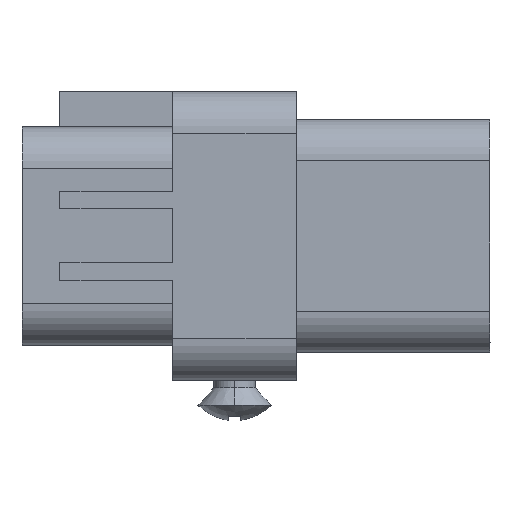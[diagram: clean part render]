
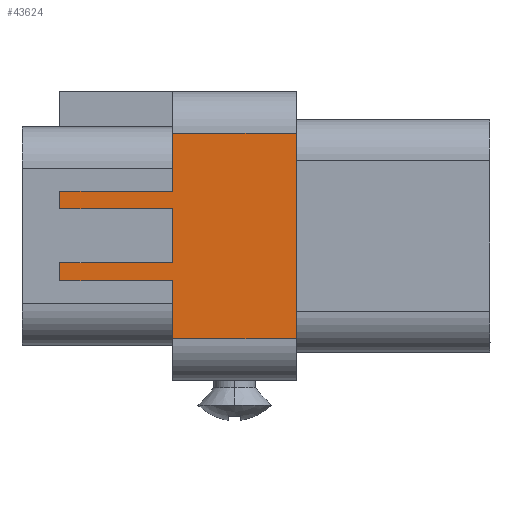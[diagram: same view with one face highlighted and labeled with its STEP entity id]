
A CAD part, top view. The second image highlights one B-rep face of the part: STEP entity #43624.
In plain terms, the highlighted planar face has unit normal (0, 0, 1).
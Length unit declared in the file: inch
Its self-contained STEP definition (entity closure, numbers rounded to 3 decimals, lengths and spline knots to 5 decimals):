
#1281 = CARTESIAN_POINT ( 'NONE',  ( 0.781, -0.29339, 0.41 ) ) ;
#1282 = DIRECTION ( 'NONE',  ( 0., 1., 0. ) ) ;
#1283 = VECTOR ( 'NONE', #1282, 39.37008 ) ;
#1284 = CARTESIAN_POINT ( 'NONE',  ( 0.781, -0.332, 0.41 ) ) ;
#1285 = LINE ( 'NONE', #1284, #1283 ) ;
#1286 = CARTESIAN_POINT ( 'NONE',  ( 0.781, 0.29339, 0.41 ) ) ;
#17921 = CARTESIAN_POINT ( 'NONE',  ( 0.428, 0.29339, 0.41 ) ) ;
#17922 = DIRECTION ( 'NONE',  ( 0., -1., 0. ) ) ;
#17923 = VECTOR ( 'NONE', #17922, 39.37008 ) ;
#17924 = CARTESIAN_POINT ( 'NONE',  ( 0.428, -0.4115, 0.41 ) ) ;
#17925 = LINE ( 'NONE', #17924, #17923 ) ;
#17926 = CARTESIAN_POINT ( 'NONE',  ( 0.428, 0.127, 0.41 ) ) ;
#18127 = CARTESIAN_POINT ( 'NONE',  ( 0.428, -0.127, 0.41 ) ) ;
#18128 = DIRECTION ( 'NONE',  ( 0., -1., 0. ) ) ;
#18129 = VECTOR ( 'NONE', #18128, 39.37008 ) ;
#18130 = CARTESIAN_POINT ( 'NONE',  ( 0.428, -0.4115, 0.41 ) ) ;
#18131 = LINE ( 'NONE', #18130, #18129 ) ;
#18132 = CARTESIAN_POINT ( 'NONE',  ( 0.428, -0.29339, 0.41 ) ) ;
#18202 = CARTESIAN_POINT ( 'NONE',  ( 0.428, -0.077, 0.41 ) ) ;
#18346 = CARTESIAN_POINT ( 'NONE',  ( 0.428, 0.077, 0.41 ) ) ;
#18347 = DIRECTION ( 'NONE',  ( 0., -1., 0. ) ) ;
#18348 = VECTOR ( 'NONE', #18347, 39.37008 ) ;
#18349 = CARTESIAN_POINT ( 'NONE',  ( 0.428, -0.4115, 0.41 ) ) ;
#18350 = LINE ( 'NONE', #18349, #18348 ) ;
#18757 = CARTESIAN_POINT ( 'NONE',  ( 0.107, 0.127, 0.41 ) ) ;
#18872 = CARTESIAN_POINT ( 'NONE',  ( 0., 0.29339, 0.41 ) ) ;
#18873 = LINE ( 'NONE', #18872, #18924 ) ;
#18875 = DIRECTION ( 'NONE',  ( 1., 0., 0. ) ) ;
#18876 = VECTOR ( 'NONE', #18875, 39.37008 ) ;
#18877 = CARTESIAN_POINT ( 'NONE',  ( 0., -0.29339, 0.41 ) ) ;
#18878 = LINE ( 'NONE', #18877, #18876 ) ;
#18879 = DIRECTION ( 'NONE',  ( 1., 0., 0. ) ) ;
#18880 = VECTOR ( 'NONE', #18879, 39.37008 ) ;
#18881 = CARTESIAN_POINT ( 'NONE',  ( -0.11225, -0.127, 0.41 ) ) ;
#18882 = LINE ( 'NONE', #18881, #18880 ) ;
#18923 = DIRECTION ( 'NONE',  ( -1., 0., 0. ) ) ;
#18924 = VECTOR ( 'NONE', #18923, 39.37008 ) ;
#18930 = CARTESIAN_POINT ( 'NONE',  ( 0.107, -0.127, 0.41 ) ) ;
#18931 = DIRECTION ( 'NONE',  ( 0., -1., 0. ) ) ;
#18932 = VECTOR ( 'NONE', #18931, 39.37008 ) ;
#18933 = CARTESIAN_POINT ( 'NONE',  ( 0.107, -0.077, 0.41 ) ) ;
#18934 = LINE ( 'NONE', #18933, #18932 ) ;
#18935 = CARTESIAN_POINT ( 'NONE',  ( 0.107, -0.077, 0.41 ) ) ;
#18936 = DIRECTION ( 'NONE',  ( 1., 0., 0. ) ) ;
#18937 = VECTOR ( 'NONE', #18936, 39.37008 ) ;
#18938 = CARTESIAN_POINT ( 'NONE',  ( -0.11225, -0.077, 0.41 ) ) ;
#18939 = LINE ( 'NONE', #18938, #18937 ) ;
#18940 = DIRECTION ( 'NONE',  ( 1., 0., 0. ) ) ;
#18941 = VECTOR ( 'NONE', #18940, 39.37008 ) ;
#18942 = CARTESIAN_POINT ( 'NONE',  ( -0.11225, 0.077, 0.41 ) ) ;
#18943 = LINE ( 'NONE', #18942, #18941 ) ;
#18944 = CARTESIAN_POINT ( 'NONE',  ( 0.107, 0.077, 0.41 ) ) ;
#18945 = DIRECTION ( 'NONE',  ( 0., -1., 0. ) ) ;
#18946 = VECTOR ( 'NONE', #18945, 39.37008 ) ;
#18947 = CARTESIAN_POINT ( 'NONE',  ( 0.107, 0.127, 0.41 ) ) ;
#18948 = LINE ( 'NONE', #18947, #18946 ) ;
#18949 = DIRECTION ( 'NONE',  ( 1., 0., 0. ) ) ;
#18950 = VECTOR ( 'NONE', #18949, 39.37008 ) ;
#18951 = CARTESIAN_POINT ( 'NONE',  ( -0.11225, 0.127, 0.41 ) ) ;
#18952 = LINE ( 'NONE', #18951, #18950 ) ;
#18956 = PLANE ( 'NONE',  #19017 ) ;
#18974 = FACE_OUTER_BOUND ( 'NONE', #43625, .T. ) ;
#19014 = DIRECTION ( 'NONE',  ( -1., 0., 0. ) ) ;
#19015 = DIRECTION ( 'NONE',  ( 0., 0., -1. ) ) ;
#19016 = CARTESIAN_POINT ( 'NONE',  ( 0., -0.311, 0.41 ) ) ;
#19017 = AXIS2_PLACEMENT_3D ( 'NONE', #19016, #19015, #19014 ) ;
#39215 = VERTEX_POINT ( 'NONE', #1286 ) ;
#39219 = EDGE_CURVE ( 'NONE', #39221, #39215, #1285, .T. ) ;
#39221 = VERTEX_POINT ( 'NONE', #1281 ) ;
#43253 = VERTEX_POINT ( 'NONE', #17926 ) ;
#43255 = EDGE_CURVE ( 'NONE', #43256, #43253, #17925, .T. ) ;
#43256 = VERTEX_POINT ( 'NONE', #17921 ) ;
#43317 = VERTEX_POINT ( 'NONE', #18132 ) ;
#43319 = EDGE_CURVE ( 'NONE', #43320, #43317, #18131, .T. ) ;
#43320 = VERTEX_POINT ( 'NONE', #18127 ) ;
#43357 = VERTEX_POINT ( 'NONE', #18202 ) ;
#43417 = EDGE_CURVE ( 'NONE', #43418, #43357, #18350, .T. ) ;
#43418 = VERTEX_POINT ( 'NONE', #18346 ) ;
#43545 = VERTEX_POINT ( 'NONE', #18757 ) ;
#43590 = ORIENTED_EDGE ( 'NONE', *, *, #43591, .T. ) ;
#43591 = EDGE_CURVE ( 'NONE', #43615, #43320, #18882, .T. ) ;
#43592 = ORIENTED_EDGE ( 'NONE', *, *, #43319, .T. ) ;
#43593 = ORIENTED_EDGE ( 'NONE', *, *, #43594, .T. ) ;
#43594 = EDGE_CURVE ( 'NONE', #43317, #39221, #18878, .T. ) ;
#43595 = ORIENTED_EDGE ( 'NONE', *, *, #39219, .T. ) ;
#43596 = ORIENTED_EDGE ( 'NONE', *, *, #43597, .T. ) ;
#43597 = EDGE_CURVE ( 'NONE', #39215, #43256, #18873, .T. ) ;
#43603 = EDGE_CURVE ( 'NONE', #43545, #43253, #18952, .T. ) ;
#43604 = ORIENTED_EDGE ( 'NONE', *, *, #43605, .T. ) ;
#43605 = EDGE_CURVE ( 'NONE', #43545, #43606, #18948, .T. ) ;
#43606 = VERTEX_POINT ( 'NONE', #18944 ) ;
#43607 = ORIENTED_EDGE ( 'NONE', *, *, #43608, .T. ) ;
#43608 = EDGE_CURVE ( 'NONE', #43606, #43418, #18943, .T. ) ;
#43609 = ORIENTED_EDGE ( 'NONE', *, *, #43417, .T. ) ;
#43610 = ORIENTED_EDGE ( 'NONE', *, *, #43611, .F. ) ;
#43611 = EDGE_CURVE ( 'NONE', #43612, #43357, #18939, .T. ) ;
#43612 = VERTEX_POINT ( 'NONE', #18935 ) ;
#43613 = ORIENTED_EDGE ( 'NONE', *, *, #43614, .T. ) ;
#43614 = EDGE_CURVE ( 'NONE', #43612, #43615, #18934, .T. ) ;
#43615 = VERTEX_POINT ( 'NONE', #18930 ) ;
#43624 = ADVANCED_FACE ( 'NONE', ( #18974 ), #18956, .F. ) ;
#43625 = EDGE_LOOP ( 'NONE', ( #43626, #43627, #43604, #43607, #43609, #43610, #43613, #43590, #43592, #43593, #43595, #43596 ) ) ;
#43626 = ORIENTED_EDGE ( 'NONE', *, *, #43255, .T. ) ;
#43627 = ORIENTED_EDGE ( 'NONE', *, *, #43603, .F. ) ;
